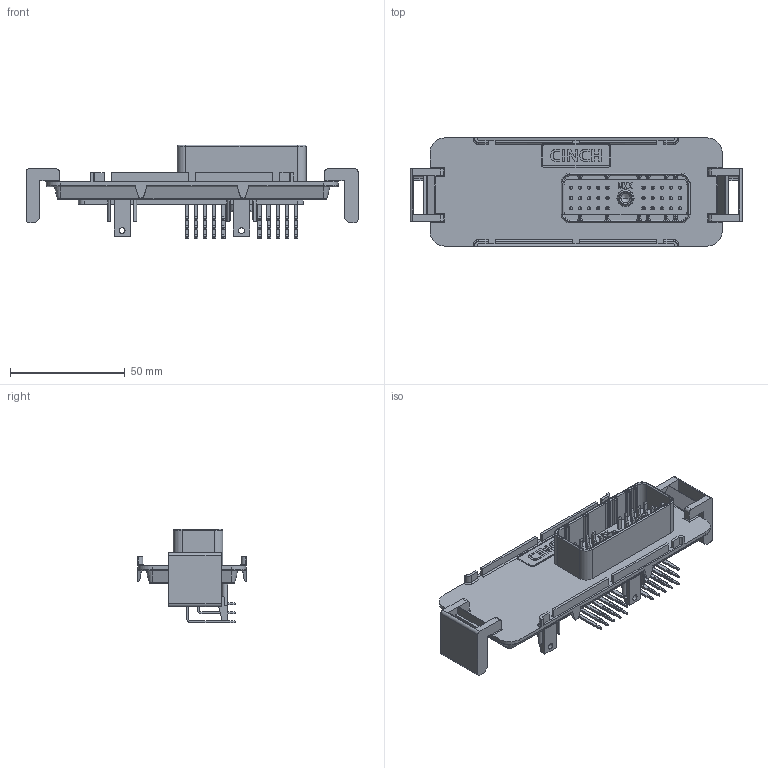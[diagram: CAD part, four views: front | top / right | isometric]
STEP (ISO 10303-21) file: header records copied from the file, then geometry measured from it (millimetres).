
FILE_DESCRIPTION((''),'2;1');
FILE_NAME('5810130044_HEADER_SE_ASM','2007-09-20T',('eake'),(''),'PRO/ENGINEER BY PARAMETRIC TECHNOLOGY CORPORATION, 2005451','PRO/ENGINEER BY PARAMETRIC TECHNOLOGY CORPORATION, 2005451','');
FILE_SCHEMA(('CONFIG_CONTROL_DESIGN'));
Length unit declared in the file: inch
Products named in the file (8): FOR4828770155; 4624111583HEX; 4040011205_TYPE1; 4040011206_TYPE2; 4040011207_TYPE3; 4630899118; 5810148005_15PIN_EPOXY; 5810130044_HEADER_SE_ASM
Assembly tree (35 placements, depth 2):
  5810130044_HEADER_SE_ASM
    FOR4828770155
    4624111583HEX
    4040011205_TYPE1  x10
    4040011206_TYPE2  x10
    4040011207_TYPE3  x10
    4630899118
    5810148005_15PIN_EPOXY  x2
Bounding box: 144.78 x 47.12 x 40.76 mm (x, y, z)
Volume: 35208.9 mm3; surface area: 48304.8 mm2
Topology: 35 solids, 35 shells, 3310 faces, 9157 edges, 5866 vertices
Faces by surface type: plane 2210, cylinder 1012, torus 46, sphere 24, cone 10, bspline 8
Entity records: 60348 total; most frequent: CARTESIAN_POINT 12374, ORIENTED_EDGE 10054, DIRECTION 9840, EDGE_CURVE 5027, VECTOR 3728, LINE 3728, VERTEX_POINT 3206, AXIS2_PLACEMENT_3D 3056
